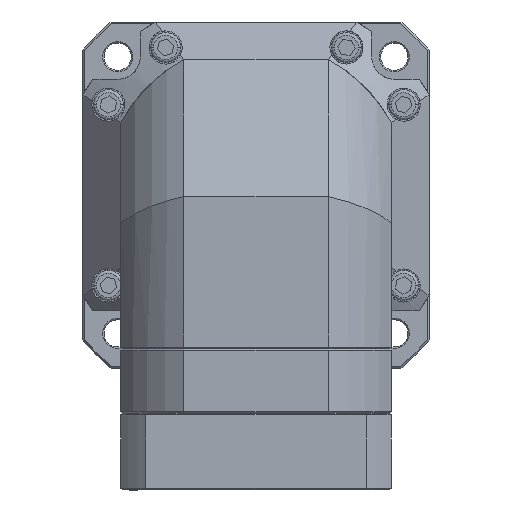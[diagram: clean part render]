
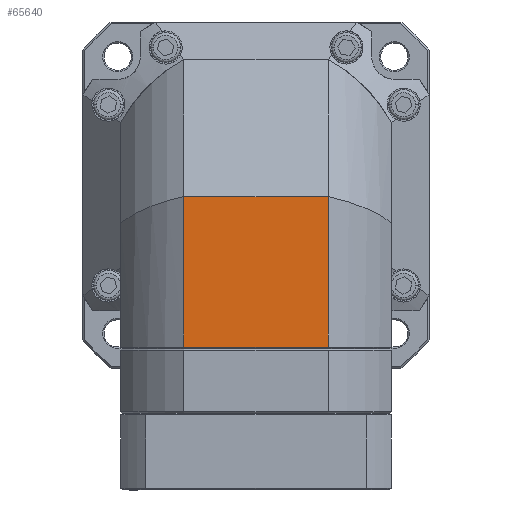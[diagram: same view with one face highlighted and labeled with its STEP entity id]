
A CAD part, front view. The second image highlights one B-rep face of the part: STEP entity #65640.
In plain terms, the highlighted planar face has unit normal (0, 1, 0).
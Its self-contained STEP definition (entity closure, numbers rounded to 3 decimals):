
#2616 = LINE ( 'NONE', #16726, #41629 ) ;
#2801 = VERTEX_POINT ( 'NONE', #27414 ) ;
#8145 = ORIENTED_EDGE ( 'NONE', *, *, #98449, .F. ) ;
#9068 = FACE_OUTER_BOUND ( 'NONE', #98268, .T. ) ;
#12709 = EDGE_CURVE ( 'NONE', #34742, #2801, #92407, .T. ) ;
#14121 = AXIS2_PLACEMENT_3D ( 'NONE', #92156, #46050, #99868 ) ;
#16117 = ORIENTED_EDGE ( 'NONE', *, *, #12709, .T. ) ;
#16726 = CARTESIAN_POINT ( 'NONE',  ( 24., -178.611, -25.35 ) ) ;
#18596 = LINE ( 'NONE', #64230, #39367 ) ;
#19517 = ORIENTED_EDGE ( 'NONE', *, *, #42539, .T. ) ;
#19722 = CARTESIAN_POINT ( 'NONE',  ( 0., -178.611, -0.5 ) ) ;
#20178 = LINE ( 'NONE', #98088, #99916 ) ;
#27414 = CARTESIAN_POINT ( 'NONE',  ( 24., -178.611, -0.5 ) ) ;
#33301 = VECTOR ( 'NONE', #73852, 1000. ) ;
#33879 = DIRECTION ( 'NONE',  ( 0., 0., 1. ) ) ;
#34742 = VERTEX_POINT ( 'NONE', #46186 ) ;
#39367 = VECTOR ( 'NONE', #87456, 1000. ) ;
#41629 = VECTOR ( 'NONE', #63164, 1000. ) ;
#42539 = EDGE_CURVE ( 'NONE', #2801, #94810, #2616, .T. ) ;
#46050 = DIRECTION ( 'NONE',  ( 0., -1., 0. ) ) ;
#46186 = CARTESIAN_POINT ( 'NONE',  ( -24., -178.611, -0.5 ) ) ;
#51610 = VERTEX_POINT ( 'NONE', #90684 ) ;
#54644 = ORIENTED_EDGE ( 'NONE', *, *, #96790, .T. ) ;
#63164 = DIRECTION ( 'NONE',  ( 0., 0., -1. ) ) ;
#64230 = CARTESIAN_POINT ( 'NONE',  ( 0., -178.611, -50.5 ) ) ;
#65640 = ADVANCED_FACE ( 'NONE', ( #9068 ), #68611, .F. ) ;
#68611 = PLANE ( 'NONE',  #14121 ) ;
#73852 = DIRECTION ( 'NONE',  ( 1., 0., 0. ) ) ;
#87456 = DIRECTION ( 'NONE',  ( 1., 0., 0. ) ) ;
#90684 = CARTESIAN_POINT ( 'NONE',  ( -24., -178.611, -50.5 ) ) ;
#92156 = CARTESIAN_POINT ( 'NONE',  ( -24., -178.611, -50.5 ) ) ;
#92407 = LINE ( 'NONE', #19722, #33301 ) ;
#94810 = VERTEX_POINT ( 'NONE', #96819 ) ;
#96790 = EDGE_CURVE ( 'NONE', #51610, #34742, #20178, .T. ) ;
#96819 = CARTESIAN_POINT ( 'NONE',  ( 24., -178.611, -50.5 ) ) ;
#98088 = CARTESIAN_POINT ( 'NONE',  ( -24., -178.611, -25.35 ) ) ;
#98268 = EDGE_LOOP ( 'NONE', ( #19517, #8145, #54644, #16117 ) ) ;
#98449 = EDGE_CURVE ( 'NONE', #51610, #94810, #18596, .T. ) ;
#99868 = DIRECTION ( 'NONE',  ( 1., 0., 0. ) ) ;
#99916 = VECTOR ( 'NONE', #33879, 1000. ) ;
